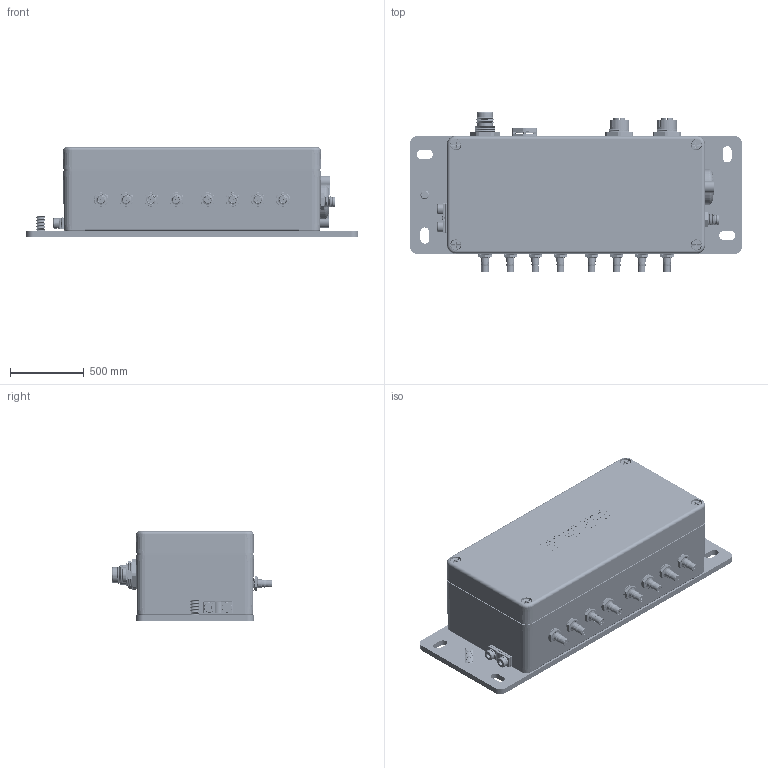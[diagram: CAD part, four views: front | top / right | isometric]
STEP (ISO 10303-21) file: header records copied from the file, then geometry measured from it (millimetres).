
FILE_DESCRIPTION(/* description */ (''),/* implementation_level */ '2;1');
FILE_NAME(/* name */ 'C:\Users\Jonathan\Documents\RailBox\Méca\RailBox_67AX.stp',/* time_stamp */ '2020-03-18T09:23:25+01:00',/* author */ ('Jonathan'),/* organization */ (''),/* preprocessor_version */ 'ST-DEVELOPER v18',/* originating_system */ 'AutoCAD Mechanical',/* authorisation */ '');
FILE_SCHEMA (('AUTOMOTIVE_DESIGN { 1 0 10303 214 3 1 1 }'));
Products named in the file (8): Product; M8m-3p; A$C4C8B2B51; QMA; QMA_1; QMA_2; A$Cc5af2574; QMA_3
Assembly tree (11 placements, depth 3):
  Product
    M8m-3p
      A$C4C8B2B51
    QMA_3  x4
    QMA
    QMA_1
    QMA_2
    A$Cc5af2574
      QMA_3
Bounding box: 2250 x 1086.49 x 605.52 mm (x, y, z)
Volume: 289589431.5 mm3; surface area: 17779606.5 mm2
Topology: 90 solids, 113 shells, 4544 faces, 12160 edges, 8011 vertices
Faces by surface type: plane 2291, cylinder 884, cone 835, torus 245, bspline 242, sphere 47
Full cylindrical faces by diameter (mm): 2.169 x1, 6 x16, 7 x16, 9.5 x8, 10 x12, 11 x16, 12 x4, 12.4 x16, 12.75 x8, 12.9 x16, 18.763 x8, 25 x8, 30 x10, 31.41 x6, 32 x2, 33 x5, 35 x8, 37 x4, 40 x4, 40.6 x16, 41 x8, 45 x10, 46 x8, 49 x8, 49.5 x8, 55.2 x8, 55.7 x8, 58 x1, 60 x11, 61.589 x2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
Entity records: 140765 total; most frequent: CARTESIAN_POINT 43163, ORIENTED_EDGE 21020, DIRECTION 19686, EDGE_CURVE 10512, AXIS2_PLACEMENT_3D 7010, VERTEX_POINT 6923, LINE 5666, VECTOR 5666
